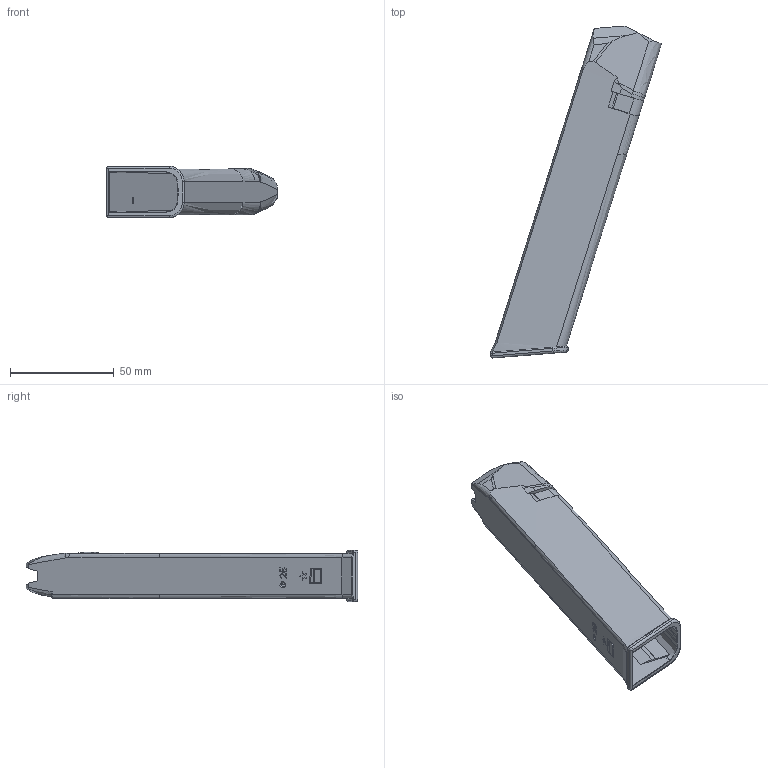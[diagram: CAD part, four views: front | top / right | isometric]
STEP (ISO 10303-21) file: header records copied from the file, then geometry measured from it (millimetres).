
FILE_DESCRIPTION(/* description */ (''),/* implementation_level */ '2;1');
FILE_NAME(/* name */ 'E:\MenMag v2.0\Menendez Magazine Pack v2.0\STEP\Mag Body - FGC-9 (25 Round) v2.0 - BWMod.stp',/* time_stamp */ '2021-03-26T09:51:38-05:00',/* author */ ('johne'),/* organization */ (''),/* preprocessor_version */ 'ST-DEVELOPER v18',/* originating_system */ 'Autodesk Inventor 2020',/* authorisation */ '');
FILE_SCHEMA (('AUTOMOTIVE_DESIGN { 1 0 10303 214 3 1 1 }'));
Length unit declared in the file: millimetre
Products named in the file (1): Magazine Body
Bounding box: 82.5 x 159.99 x 24.87 mm (x, y, z)
Volume: 27908.6 mm3; surface area: 32667.1 mm2
Topology: 1 solids, 9 shells, 305 faces, 798 edges, 510 vertices
Faces by surface type: plane 139, bspline 111, cylinder 51, torus 2, cone 2
Full cylindrical faces by diameter (mm): 2 x1
Entity records: 11758 total; most frequent: CARTESIAN_POINT 4801, ORIENTED_EDGE 1584, DIRECTION 1199, EDGE_CURVE 792, VERTEX_POINT 510, LINE 441, VECTOR 441, AXIS2_PLACEMENT_3D 379
